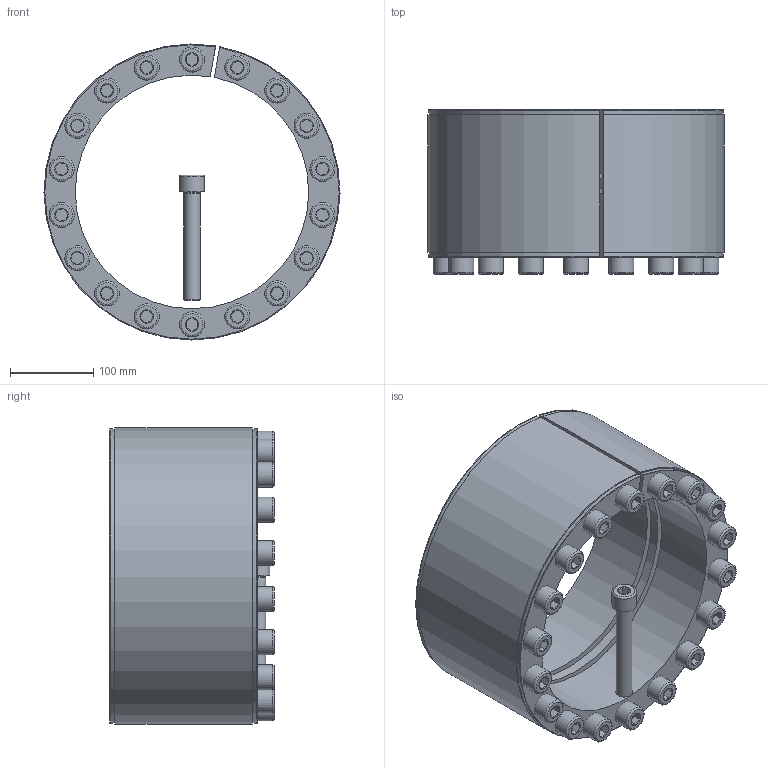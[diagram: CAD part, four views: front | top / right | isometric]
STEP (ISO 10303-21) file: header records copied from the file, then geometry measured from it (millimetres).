
FILE_DESCRIPTION( ( 'Unknown' ), '1' );
FILE_NAME( 'C:/Dokumente und Einstellungen/Sven/Desktop/homepage/cad - homepage/KBS11/KBS 11 - 280 x 355.stp', 'Unknown', ( 'Unknown' ), ( 'Unknown' ), 'XStep 1.0', 'Unknown', ' ' );
FILE_SCHEMA( ( 'automotive_design' ) );
Length unit declared in the file: millimetre
Products named in the file (3): Assem1; KBS 11 - 280 x 355; ISO EN DIN 4762 M20x130
Bounding box: 354.99 x 197 x 354.98 mm (x, y, z)
Volume: 11590128.2 mm3; surface area: 1647485.5 mm2
Topology: 21 solids, 21 shells, 623 faces, 1321 edges, 816 vertices
Faces by surface type: plane 248, cylinder 196, cone 141, torus 38
Full cylindrical faces by diameter (mm): 18 x19, 20 x146, 30 x19
Entity records: 3422 total; most frequent: CARTESIAN_POINT 573, DIRECTION 564, ORIENTED_EDGE 394, EDGE_LOOP 272, AXIS2_PLACEMENT_3D 262, EDGE_CURVE 197, VERTEX_POINT 167, FACE_OUTER_BOUND 159
